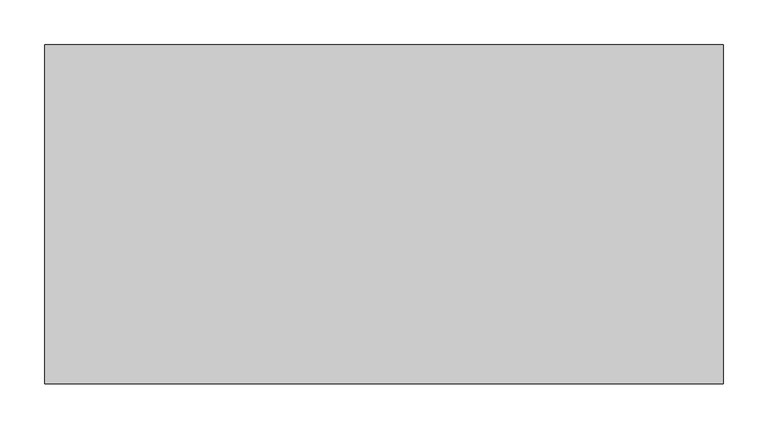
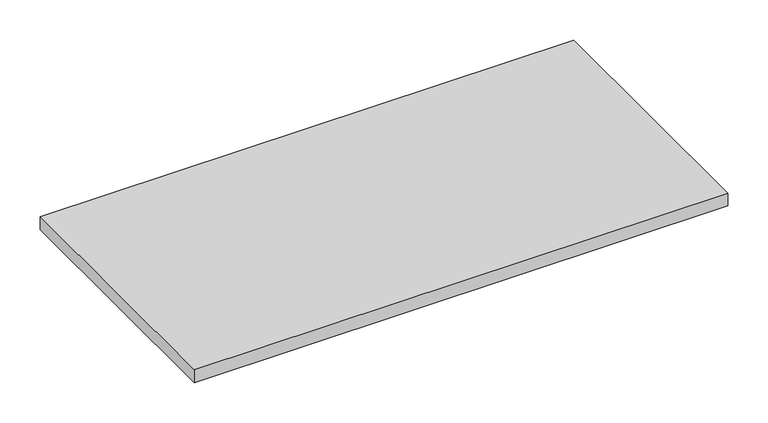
"""IFC4 building model written with IfcOpenShell, lengths in millimetres: furniture geometry, Steelcase - Universal Storage - Adjustable Steel Standard Shelf : 15D x 30W."""

from ifc_helpers import new_model, si_unit, frame, origin, place, context, project, spatial, polyline, outline, extrude, source, transform, mapped, element, save


def furniture_6dc218d8(model_context):
    return source(origin(), model_context, "Body", "SweptSolid", [
        extrude(outline(polyline([(762.0, 0.0), (762.0, -381.0), (0.0, -381.0), (0.0, 0.0), (762.0, 0.0)])), frame((0.0, 0.0, 285.75), z_axis=(0.0, 0.0, 1.0), x_axis=(1.0, 0.0, 0.0)), (0.0, 0.0, 1.0), 19.05),
    ])


if __name__ == "__main__":
    model = new_model("IFC4")
    model_context = context("Model", 3, world=origin())
    ifc_project = project(units=[si_unit("LENGTHUNIT", "METRE", prefix="MILLI")], contexts=[model_context])
    site = spatial("IfcSite", under=ifc_project)
    building = spatial("IfcBuilding", under=site)
    placement = place(None, origin())
    furniture_shape = furniture_6dc218d8(model_context)
    element("IfcFurniture", 1, ObjectType="Steelcase - Universal Storage - Adjustable Steel Standard Shelf : 15D x 30W", at=placement, inside=building, context=model_context, shape_type="MappedRepresentation", body=[
        mapped(furniture_shape, transform((0.0, 0.0, 0.0), x_axis=(1.0, 0.0, 0.0), y_axis=(0.0, 1.0, 0.0), z_axis=(0.0, 0.0, 1.0))),
    ])
    save(model, "model.ifc")
